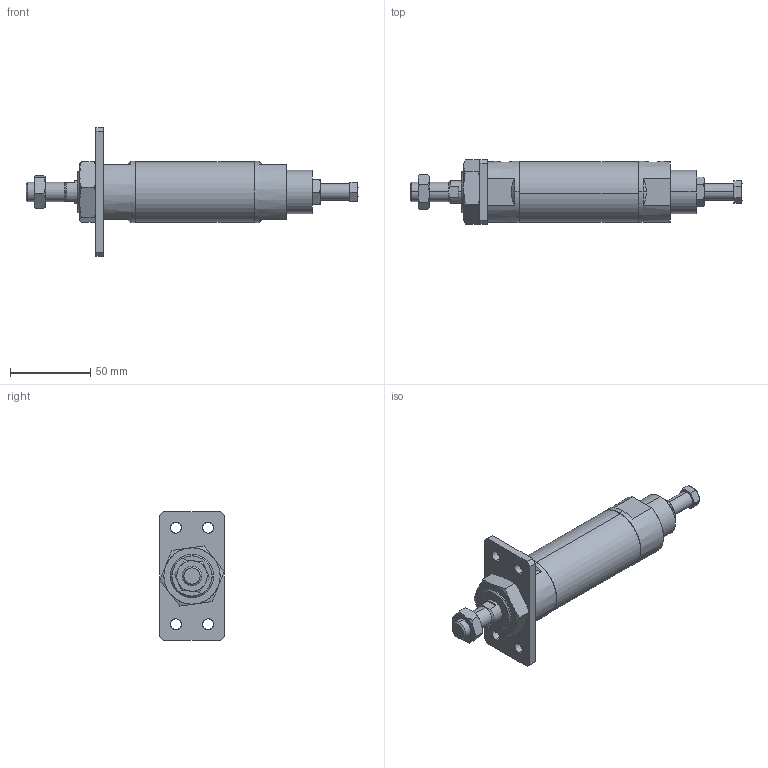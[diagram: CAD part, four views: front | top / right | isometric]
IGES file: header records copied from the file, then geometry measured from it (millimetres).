
Start section: SolidWorks IGES file using analytic representation for surfaces
Global section: file name: C:\Users\Toshiba\Desktop\JGA2-32-25-A.IGS; native system: SolidWorks 2014; preprocessor: SolidWorks 2014; author: Toshiba; date: 160420.130729; units: millimetre
Bounding box: 206.5 x 40.02 x 80 mm (x, y, z)
Surface area: 37374.9 mm2 (no closed solid volume)
Topology: 0 solids, 0 shells, 144 faces, 2594 edges, 2590 vertices
Faces by surface type: bspline 94, revolution 50
